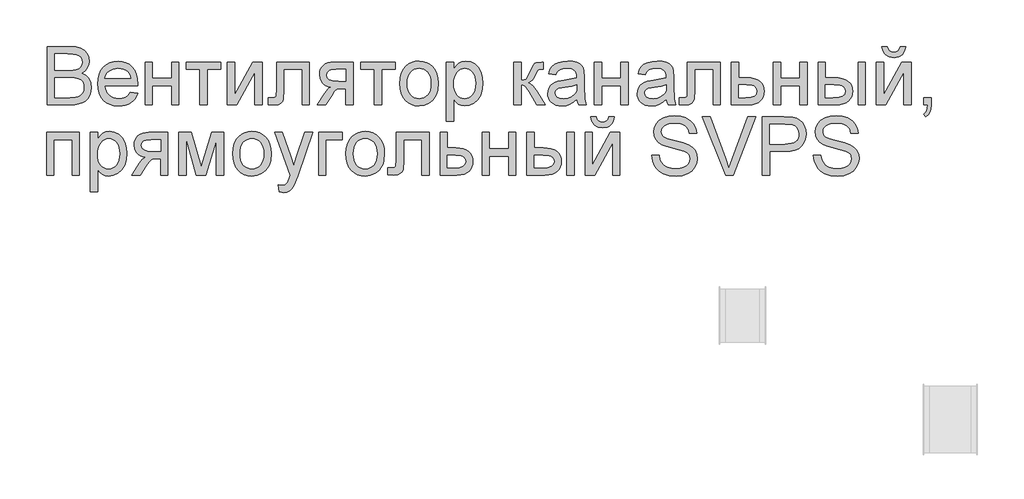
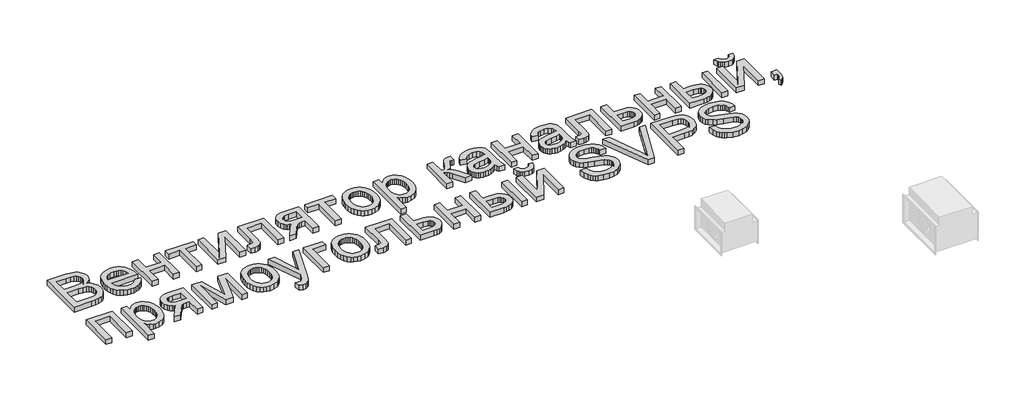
# One storey, part 22 of 31: 1 proxy.
"""IFC4 building model written with IfcOpenShell, lengths in millimetres."""

from ifc_helpers import new_model, si_unit, origin, origin_with_axes, place, context, project, spatial, polyline, outline, extrude, element, save

model = new_model("IFC4")

# Units and contexts
model_context = context("Model", 3, world=origin())
ifc_project = project(units=[si_unit("LENGTHUNIT", "METRE", prefix="MILLI")], contexts=[model_context])

# Site, building, storey
site = spatial("IfcSite", under=ifc_project)
building = spatial("IfcBuilding", under=site)
storey = spatial("IfcBuildingStorey", under=building, Name="Этаж 01", Elevation=0.0)

# Proxy
placement = place(None, origin())
element("IfcBuildingElementProxy", 1, Name="450 мм Arial", ObjectType="450 мм Arial", at=placement, inside=storey, context=model_context, shape_type="SweptSolid", body=[
    extrude(outline(polyline([(42370.3525298, -2479.5055236), (42370.3525298, -2029.8493808), (42541.9376253, -2029.8493808), (42589.1290155, -2033.1564832), (42625.9737037, -2043.0777903), (42654.2144368, -2059.8603056), (42675.5939617, -2083.7510327), (42689.0556522, -2111.8545416), (42693.5428824, -2141.2754025), (42689.7692179, -2168.3497302), (42678.4482243, -2193.8048128), (42659.4975672, -2216.0762947), (42632.834912, -2233.5998205), (42664.6846406, -2250.2313893), (42688.2185848, -2275.5355253), (42702.7506239, -2307.8380936), (42707.5946369, -2345.4649596), (42704.2875345, -2376.8206812), (42694.3662274, -2405.8984817), (42679.5597401, -2430.6262762), (42661.5970969, -2448.9319797), (42639.6000633, -2462.1878341), (42612.6904046, -2471.7660807), (42579.9898862, -2477.5706629), (42540.6202733, -2479.5055236), (42370.3525298, -2479.5055236)]), holes=[polyline([(42426.5595476, -2212.5221888), (42529.2032228, -2212.5221888), (42565.1010643, -2211.3146162), (42589.1427379, -2207.6918982), (42610.1243127, -2199.3623914), (42625.2052484, -2186.8887149), (42634.3032105, -2170.4629824), (42637.3358646, -2150.2773077), (42634.5090468, -2130.681697), (42626.0285934, -2113.6110109), (42612.2787321, -2100.2865445), (42593.6436905, -2091.9295929), (42565.0461746, -2087.5246972), (42521.4088903, -2086.0563987), (42426.5595476, -2086.0563987), (42426.5595476, -2212.5221888)]), polyline([(42426.5595476, -2423.2985058), (42541.827846, -2423.2985058), (42583.543992, -2421.1029192), (42602.9063217, -2416.2314613), (42618.8380472, -2408.8625237), (42631.7920083, -2398.3099854), (42642.2210448, -2383.8877257), (42649.0959755, -2366.2406981), (42651.387619, -2346.0138562), (42648.6980254, -2322.5210792), (42640.6292445, -2302.3216822), (42626.5363228, -2286.5271809), (42605.7743067, -2276.2490909), (42576.3671682, -2270.6091777), (42536.3388794, -2268.7292067), (42426.5595476, -2268.7292067), (42426.5595476, -2423.2985058)])]), origin_with_axes(), (0.0, 0.0, 1.0), 50.0),
    extrude(outline(polyline([(43009.0486819, -2381.1432424), (43064.1579064, -2388.1691196), (43055.7083285, -2410.2416265), (43044.3015698, -2429.6931519), (43029.9376303, -2446.5236957), (43012.6165101, -2460.7332579), (42992.5166006, -2472.0199455), (42969.8162932, -2480.0818651), (42944.5155878, -2484.9190169), (42916.6144845, -2486.5314009), (42881.7389631, -2483.7491809), (42850.664551, -2475.4025211), (42823.3912483, -2461.4914214), (42799.9190549, -2442.0158818), (42781.043871, -2417.5179378), (42767.5615969, -2388.5396249), (42759.4722324, -2355.0809429), (42756.7757775, -2317.141892), (42759.4996772, -2277.9163645), (42767.6713762, -2243.3427362), (42781.2908745, -2213.4210071), (42800.3581722, -2188.1511772), (42823.7686147, -2168.0752819), (42850.4175475, -2153.7353567), (42880.3049706, -2145.1314016), (42913.4308839, -2142.2634165), (42945.4898794, -2145.1245404), (42974.4819148, -2153.7079119), (43000.4069901, -2168.013531), (43023.2651053, -2188.0413979), (43041.9241611, -2213.2563381), (43055.2520581, -2243.1231776), (43063.2487963, -2277.6419162), (43065.9143757, -2316.812554), (43065.5850377, -2331.9621018), (42812.9827954, -2331.9621018), (42816.2384387, -2354.3913915), (42822.7119886, -2374.0350307), (42832.4034453, -2390.8930193), (42845.3128086, -2404.9653574), (42860.7265129, -2416.0599311), (42877.9309925, -2423.9846266), (42896.9262475, -2428.7394439), (42917.7122779, -2430.324383), (42947.6271458, -2427.3877859), (42972.8215024, -2418.5779945), (42993.2953478, -2403.3461122), (43009.0486819, -2381.1432424)]), holes=[polyline([(42812.9827954, -2275.7550839), (43009.7073579, -2275.7550839), (43002.1051391, -2246.0597747), (42987.2025948, -2224.817474), (42971.8746557, -2213.2906442), (42954.4334643, -2205.0571943), (42934.8790209, -2200.1171244), (42913.2113253, -2198.4704344), (42875.3237334, -2203.7261199), (42843.9954566, -2219.4931764), (42831.538933, -2230.8930739), (42822.2179817, -2244.0700243), (42816.0326024, -2259.0240276), (42812.9827954, -2275.7550839)])]), origin_with_axes(), (0.0, 0.0, 1.0), 50.0),
    extrude(outline(polyline([(43122.1213936, -2149.2892938), (43178.3284114, -2149.2892938), (43178.3284114, -2275.7550839), (43325.8718333, -2275.7550839), (43325.8718333, -2149.2892938), (43382.0788511, -2149.2892938), (43382.0788511, -2479.5055236), (43325.8718333, -2479.5055236), (43325.8718333, -2331.9621018), (43178.3284114, -2331.9621018), (43178.3284114, -2479.5055236), (43122.1213936, -2479.5055236), (43122.1213936, -2149.2892938)])), origin_with_axes(), (0.0, 0.0, 1.0), 50.0),
    extrude(outline(polyline([(43438.285869, -2149.2892938), (43705.2692038, -2149.2892938), (43705.2692038, -2205.4963116), (43599.8810453, -2205.4963116), (43599.8810453, -2479.5055236), (43543.6740274, -2479.5055236), (43543.6740274, -2205.4963116), (43438.285869, -2205.4963116), (43438.285869, -2149.2892938)])), origin_with_axes(), (0.0, 0.0, 1.0), 50.0),
    extrude(outline(polyline([(43754.4503444, -2149.2892938), (43810.6573622, -2149.2892938), (43810.6573622, -2401.1230808), (43948.7597616, -2149.2892938), (44021.4336792, -2149.2892938), (44021.4336792, -2479.5055236), (43965.2266613, -2479.5055236), (43965.2266613, -2229.2086473), (43828.0024967, -2479.5055236), (43754.4503444, -2479.5055236), (43754.4503444, -2149.2892938)])), origin_with_axes(), (0.0, 0.0, 1.0), 50.0),
    extrude(outline(polyline([(44133.8477149, -2149.2892938), (44386.7792952, -2149.2892938), (44386.7792952, -2479.1761856), (44330.5722774, -2479.1761856), (44330.5722774, -2205.4963116), (44190.0547327, -2205.4963116), (44190.0547327, -2363.0296527), (44186.2673458, -2435.7035703), (44179.1728565, -2452.1567476), (44165.4641624, -2466.3868935), (44144.6609791, -2476.2258661), (44116.2830218, -2479.5055236), (44070.6148198, -2476.651261), (44070.6148198, -2423.2985058), (44095.7542868, -2423.2985058), (44121.1682021, -2419.8404568), (44127.5216809, -2415.3669491), (44131.3227903, -2408.8625237), (44133.8477149, -2359.846052), (44133.8477149, -2149.2892938)])), origin_with_axes(), (0.0, 0.0, 1.0), 50.0),
    extrude(outline(polyline([(44724.0214023, -2149.2892938), (44724.0214023, -2479.5055236), (44667.8143845, -2479.5055236), (44667.8143845, -2353.0397335), (44637.1859509, -2353.0397335), (44612.7600496, -2354.8236476), (44595.4698049, -2360.17539), (44578.8107913, -2375.7366103), (44556.2785834, -2408.148958), (44511.4886161, -2479.5055236), (44446.4992517, -2479.5055236), (44502.9258282, -2389.2669129), (44527.8457365, -2356.8820101), (44539.5646802, -2347.4409876), (44550.7896169, -2342.5009176), (44530.1511025, -2337.9382141), (44512.3668507, -2330.7270843), (44497.4368616, -2320.8675281), (44485.3611351, -2308.3595455), (44469.3882424, -2278.6093465), (44464.0639448, -2244.687533), (44465.882165, -2224.4469688), (44471.3368255, -2206.2098773), (44480.4279264, -2189.9762586), (44493.1554677, -2175.7461127), (44509.3273355, -2164.1712544), (44528.751416, -2155.9034985), (44551.4277092, -2150.9428449), (44577.3562151, -2149.2892938), (44724.0214023, -2149.2892938)]), holes=[polyline([(44667.8143845, -2205.4963116), (44593.7133356, -2205.4963116), (44555.441516, -2208.7485243), (44542.5115691, -2212.8137902), (44533.7189308, -2218.5051624), (44523.6329547, -2232.625529), (44520.2709626, -2248.968927), (44525.224755, -2270.3896191), (44540.086132, -2285.2509961), (44567.5446874, -2293.9372857), (44610.2900147, -2296.8327156), (44667.8143845, -2296.8327156), (44667.8143845, -2205.4963116)])]), origin_with_axes(), (0.0, 0.0, 1.0), 50.0),
    extrude(outline(polyline([(44780.2284202, -2149.2892938), (45047.211755, -2149.2892938), (45047.211755, -2205.4963116), (44941.8235965, -2205.4963116), (44941.8235965, -2479.5055236), (44885.6165787, -2479.5055236), (44885.6165787, -2205.4963116), (44780.2284202, -2205.4963116), (44780.2284202, -2149.2892938)])), origin_with_axes(), (0.0, 0.0, 1.0), 50.0),
    extrude(outline(polyline([(45082.3411412, -2314.3974087), (45085.3806564, -2271.6314978), (45094.4992021, -2234.7799484), (45109.6967784, -2203.8427604), (45130.9733851, -2178.819934), (45152.3940772, -2162.8264576), (45176.0378008, -2151.4025459), (45201.9045558, -2144.5481989), (45229.9943423, -2142.2634165), (45261.003573, -2145.0456365), (45289.0419004, -2153.3922963), (45314.1093247, -2167.303396), (45336.2058458, -2186.7789355), (45354.2405316, -2211.160239), (45367.1224501, -2239.7886304), (45374.8516012, -2272.6641096), (45377.4279849, -2309.7866768), (45372.8721426, -2366.5700361), (45367.1773398, -2389.8775605), (45359.2046158, -2409.795648), (45336.8233545, -2442.1668284), (45306.1263089, -2466.3868935), (45269.6658484, -2481.495274), (45229.9943423, -2486.5314009), (45198.532272, -2483.7594727), (45170.2332186, -2475.4436884), (45145.0971823, -2461.5840477), (45123.1241629, -2442.1805508), (45105.2815909, -2417.5625357), (45092.5368966, -2388.0593403), (45084.89008, -2353.6709646), (45082.3411412, -2314.3974087)]), holes=[polyline([(45138.548159, -2314.2876294), (45140.1742654, -2341.5506403), (45145.0525844, -2365.1566272), (45153.1831162, -2385.1055902), (45164.5658606, -2401.3975291), (45178.4117788, -2414.0530277), (45193.9318319, -2423.0926695), (45211.1260197, -2428.5164546), (45229.9943423, -2430.324383), (45248.7666081, -2428.5061628), (45265.8921838, -2423.0515023), (45281.3710696, -2413.9604014), (45295.2032654, -2401.2328601), (45306.5860099, -2384.7796828), (45314.7165416, -2364.5116736), (45319.5948607, -2340.4288327), (45321.220967, -2312.5311601), (45319.5845689, -2286.1326614), (45314.6753744, -2263.1441832), (45306.4933835, -2243.5657255), (45295.0385964, -2227.3972883), (45281.1549415, -2214.7417897), (45265.6863476, -2205.7021479), (45248.6328145, -2200.2783627), (45229.9943423, -2198.4704344), (45211.1260197, -2200.2715015), (45193.9318319, -2205.674703), (45178.4117788, -2214.6800388), (45164.5658606, -2227.287509), (45153.1831162, -2243.5314195), (45145.0525844, -2263.4460764), (45140.1742654, -2287.0314797), (45138.548159, -2314.2876294)])]), origin_with_axes(), (0.0, 0.0, 1.0), 50.0),
    extrude(outline(polyline([(45440.66088, -2605.9713138), (45440.66088, -2149.2892938), (45496.8678978, -2149.2892938), (45496.8678978, -2204.3985183), (45515.2010462, -2177.2144113), (45535.7297812, -2157.797192), (45559.6616756, -2146.1468604), (45588.2043018, -2142.2634165), (45626.2153954, -2147.6974934), (45659.4510881, -2163.9997242), (45686.5116934, -2190.1820948), (45705.9975248, -2225.2565913), (45717.7713581, -2266.6708442), (45721.6959692, -2311.8724841), (45717.2636287, -2359.942109), (45703.9666071, -2402.9344397), (45682.2302995, -2438.6676122), (45652.4801006, -2464.9597622), (45617.830999, -2481.1384912), (45581.3979833, -2486.5314009), (45555.558673, -2482.9224053), (45532.491291, -2472.0954187), (45512.7447337, -2455.7520207), (45496.8678978, -2435.5937909), (45496.8678978, -2605.9713138), (45440.66088, -2605.9713138)]), holes=[polyline([(45496.8678978, -2317.0321127), (45498.3876554, -2344.1201628), (45502.9469283, -2367.4208259), (45510.5457164, -2386.9341021), (45521.1840198, -2402.6599914), (45533.990465, -2414.7631627), (45548.0936785, -2423.4082851), (45563.4936604, -2428.5953585), (45580.1904106, -2430.324383), (45597.1273031, -2428.5336077), (45612.8085945, -2423.1612816), (45627.2342849, -2414.2074049), (45640.4043741, -2401.6719774), (45651.3788766, -2385.3766079), (45659.217807, -2365.1429048), (45663.9211653, -2340.9708682), (45665.4889514, -2312.8604981), (45663.9589019, -2286.005729), (45659.3687536, -2262.7462331), (45651.7185064, -2243.0820103), (45641.0081604, -2227.0130606), (45628.1708398, -2214.5256616), (45614.1396689, -2205.6060909), (45598.9146479, -2200.2543485), (45582.4957766, -2198.4704344), (45566.1283643, -2200.3675585), (45550.7283824, -2206.0589307), (45536.2958309, -2215.5445511), (45522.8307098, -2228.8244196), (45511.4719795, -2245.7201449), (45503.3586008, -2266.0533355), (45498.4905736, -2289.8239914), (45496.8678978, -2317.0321127)])]), origin_with_axes(), (0.0, 0.0, 1.0), 50.0),
    extrude(outline(polyline([(45960.5757951, -2149.2892938), (46016.7828129, -2149.2892938), (46016.7828129, -2289.8068384), (46039.6443588, -2287.2819138), (46054.4371237, -2279.7071399), (46067.528309, -2259.9468602), (46085.285116, -2220.8654181), (46099.5975963, -2188.9059101), (46110.9185899, -2170.0924771), (46121.4848506, -2159.841832), (46133.5331323, -2153.5706877), (46174.645492, -2149.2892938), (46185.4038665, -2149.2892938), (46185.4038665, -2205.8256496), (46170.2543187, -2205.4963116), (46152.6896256, -2206.9783326), (46142.8094858, -2211.4243955), (46123.4883234, -2248.4200303), (46111.6184332, -2273.0792127), (46100.8188914, -2288.4345967), (46087.7414285, -2298.6852418), (46069.0377749, -2308.0302075), (46086.8494714, -2315.9411805), (46104.496499, -2329.9037393), (46121.9788576, -2349.9178837), (46139.2965472, -2375.9836138), (46199.455621, -2479.5055236), (46135.5640499, -2479.5055236), (46076.6125487, -2378.1792004), (46060.6945456, -2351.2146521), (46046.9721292, -2335.3103714), (46033.1124885, -2327.5297613), (46016.7828129, -2324.9362245), (46016.7828129, -2479.5055236), (45960.5757951, -2479.5055236), (45960.5757951, -2149.2892938)])), origin_with_axes(), (0.0, 0.0, 1.0), 50.0),
    extrude(outline(polyline([(46445.3613241, -2437.3502602), (46418.506555, -2460.3764751), (46390.8558859, -2475.4436884), (46361.7780854, -2483.7594727), (46330.6419224, -2486.5314009), (46305.6156654, -2484.8641273), (46283.6700908, -2479.8623065), (46264.8051988, -2471.5259385), (46249.0209892, -2459.8550233), (46236.5576045, -2445.5905713), (46227.6551868, -2429.4735932), (46222.3137362, -2411.5040888), (46220.5332527, -2391.6820582), (46223.2228463, -2368.3813951), (46231.2916272, -2347.2214289), (46243.7378589, -2329.1078392), (46259.5598051, -2314.9463054), (46278.1536794, -2304.2428205), (46298.9156955, -2296.5033776), (46347.5479395, -2288.0503691), (46405.0174197, -2279.1582432), (46445.0319861, -2268.7292067), (46445.3613241, -2256.2143629), (46441.4916026, -2231.1297856), (46429.8824383, -2214.7177755), (46403.9196263, -2202.5322697), (46367.7473365, -2198.4704344), (46334.2646403, -2201.1737504), (46310.8816427, -2209.2836986), (46294.9361947, -2224.2822998), (46283.7661477, -2247.651575), (46227.5591299, -2240.6256978), (46237.315768, -2209.8874849), (46251.8752519, -2185.7360319), (46272.5961007, -2167.2656593), (46300.8368338, -2153.5706877), (46335.3761561, -2145.0902343), (46374.9927724, -2142.2634165), (46412.9901436, -2144.7608963), (46443.1108478, -2152.2533357), (46465.821447, -2163.5194396), (46481.5885035, -2177.337913), (46492.0449849, -2194.4223215), (46498.8238586, -2215.4862308), (46501.5683419, -2264.6673714), (46501.5683419, -2334.5968057), (46504.4226045, -2432.2455213), (46515.6200964, -2479.5055236), (46459.4130785, -2479.5055236), (46450.4111733, -2459.9648026), (46445.3613241, -2437.3502602)]), holes=[polyline([(46445.3613241, -2324.9362245), (46407.5972339, -2334.2949126), (46354.683596, -2342.1715796), (46306.3258004, -2351.2832642), (46293.7423445, -2357.5132412), (46284.4248237, -2366.1034739), (46278.6614088, -2376.3952863), (46276.7402705, -2387.7300023), (46280.9256075, -2404.4439056), (46293.4816186, -2418.1388772), (46314.1338554, -2427.2780066), (46342.6078696, -2430.324383), (46372.7971858, -2426.962391), (46399.4735634, -2416.8764149), (46421.1000918, -2402.0150378), (46436.1398602, -2384.326843), (46442.8089546, -2366.1034739), (46445.0319861, -2340.8542276), (46445.3613241, -2324.9362245)])]), origin_with_axes(), (0.0, 0.0, 1.0), 50.0),
    extrude(outline(polyline([(46578.8529915, -2149.2892938), (46635.0600093, -2149.2892938), (46635.0600093, -2275.7550839), (46782.6034312, -2275.7550839), (46782.6034312, -2149.2892938), (46838.810449, -2149.2892938), (46838.810449, -2479.5055236), (46782.6034312, -2479.5055236), (46782.6034312, -2331.9621018), (46635.0600093, -2331.9621018), (46635.0600093, -2479.5055236), (46578.8529915, -2479.5055236), (46578.8529915, -2149.2892938)])), origin_with_axes(), (0.0, 0.0, 1.0), 50.0),
    extrude(outline(polyline([(47133.8972928, -2437.3502602), (47107.0425237, -2460.3764751), (47079.3918545, -2475.4436884), (47050.3140541, -2483.7594727), (47019.1778911, -2486.5314009), (46994.1516341, -2484.8641273), (46972.2060595, -2479.8623065), (46953.3411675, -2471.5259385), (46937.5569579, -2459.8550233), (46925.0935732, -2445.5905713), (46916.1911555, -2429.4735932), (46910.8497049, -2411.5040888), (46909.0692213, -2391.6820582), (46911.758815, -2368.3813951), (46919.8275959, -2347.2214289), (46932.2738276, -2329.1078392), (46948.0957738, -2314.9463054), (46966.6896481, -2304.2428205), (46987.4516642, -2296.5033776), (47036.0839082, -2288.0503691), (47093.5533883, -2279.1582432), (47133.5679548, -2268.7292067), (47133.8972928, -2256.2143629), (47130.0275713, -2231.1297856), (47118.418407, -2214.7177755), (47092.455595, -2202.5322697), (47056.2833052, -2198.4704344), (47022.800609, -2201.1737504), (46999.4176114, -2209.2836986), (46983.4721634, -2224.2822998), (46972.3021164, -2247.651575), (46916.0950986, -2240.6256978), (46925.8517367, -2209.8874849), (46940.4112206, -2185.7360319), (46961.1320694, -2167.2656593), (46989.3728025, -2153.5706877), (47023.9121248, -2145.0902343), (47063.5287411, -2142.2634165), (47101.5261123, -2144.7608963), (47131.6468165, -2152.2533357), (47154.3574157, -2163.5194396), (47170.1244722, -2177.337913), (47180.5809536, -2194.4223215), (47187.3598273, -2215.4862308), (47190.1043106, -2264.6673714), (47190.1043106, -2334.5968057), (47192.9585732, -2432.2455213), (47204.1560651, -2479.5055236), (47147.9490472, -2479.5055236), (47138.947142, -2459.9648026), (47133.8972928, -2437.3502602)]), holes=[polyline([(47133.8972928, -2324.9362245), (47096.1332026, -2334.2949126), (47043.2195647, -2342.1715796), (46994.8617691, -2351.2832642), (46982.2783132, -2357.5132412), (46972.9607924, -2366.1034739), (46967.1973775, -2376.3952863), (46965.2762392, -2387.7300023), (46969.4615762, -2404.4439056), (46982.0175873, -2418.1388772), (47002.6698241, -2427.2780066), (47031.1438382, -2430.324383), (47061.3331545, -2426.962391), (47088.0095321, -2416.8764149), (47109.6360604, -2402.0150378), (47124.6758289, -2384.326843), (47131.3449233, -2366.1034739), (47133.5679548, -2340.8542276), (47133.8972928, -2324.9362245)])]), origin_with_axes(), (0.0, 0.0, 1.0), 50.0),
    extrude(outline(polyline([(47295.4924691, -2149.2892938), (47548.4240494, -2149.2892938), (47548.4240494, -2479.1761856), (47492.2170316, -2479.1761856), (47492.2170316, -2205.4963116), (47351.6994869, -2205.4963116), (47351.6994869, -2363.0296527), (47347.9121, -2435.7035703), (47340.8176107, -2452.1567476), (47327.1089166, -2466.3868935), (47306.3057333, -2476.2258661), (47277.927776, -2479.5055236), (47232.259574, -2476.651261), (47232.259574, -2423.2985058), (47257.399041, -2423.2985058), (47282.8129563, -2419.8404568), (47289.1664351, -2415.3669491), (47292.9675445, -2408.8625237), (47295.4924691, -2359.846052), (47295.4924691, -2149.2892938)])), origin_with_axes(), (0.0, 0.0, 1.0), 50.0),
    extrude(outline(polyline([(47632.7345762, -2149.2892938), (47688.941594, -2149.2892938), (47688.941594, -2268.7292067), (47753.7113998, -2268.7292067), (47783.6125453, -2270.4891066), (47809.863528, -2275.7688063), (47832.4643479, -2284.5683059), (47851.415005, -2296.8876053), (47866.3998838, -2312.3013096), (47877.1033687, -2330.3840239), (47883.5254596, -2351.1357482), (47885.6661565, -2374.5564825), (47883.8445057, -2395.4522922), (47878.3795534, -2414.7768852), (47869.2712995, -2432.5302615), (47856.519744, -2448.7124211), (47839.7612428, -2462.1844035), (47818.6321521, -2471.807248), (47793.1324717, -2477.5809547), (47763.2622016, -2479.5055236), (47632.7345762, -2479.5055236), (47632.7345762, -2149.2892938)]), holes=[polyline([(47688.941594, -2423.2985058), (47741.4161146, -2423.2985058), (47782.1305243, -2420.3481862), (47809.204852, -2411.4972276), (47824.395567, -2396.3888471), (47829.4591387, -2374.6662618), (47825.712919, -2356.3056686), (47814.4742599, -2340.0857723), (47804.70733, -2333.4578452), (47790.391419, -2328.7236115), (47748.1126539, -2324.9362245), (47688.941594, -2324.9362245), (47688.941594, -2423.2985058)])]), origin_with_axes(), (0.0, 0.0, 1.0), 50.0),
    extrude(outline(polyline([(47955.9249288, -2149.2892938), (48012.1319467, -2149.2892938), (48012.1319467, -2275.7550839), (48159.6753686, -2275.7550839), (48159.6753686, -2149.2892938), (48215.8823864, -2149.2892938), (48215.8823864, -2479.5055236), (48159.6753686, -2479.5055236), (48159.6753686, -2331.9621018), (48012.1319467, -2331.9621018), (48012.1319467, -2479.5055236), (47955.9249288, -2479.5055236), (47955.9249288, -2149.2892938)])), origin_with_axes(), (0.0, 0.0, 1.0), 50.0),
    extrude(outline(polyline([(48300.1929132, -2149.2892938), (48356.399931, -2149.2892938), (48356.399931, -2268.7292067), (48425.890248, -2268.7292067), (48457.866909, -2270.4891066), (48485.9532649, -2275.7688063), (48510.1493158, -2284.5683059), (48530.4550615, -2296.8876053), (48546.5205806, -2312.3013096), (48557.9959514, -2330.3840239), (48564.8811738, -2351.1357482), (48567.176248, -2374.5564825), (48565.2516791, -2395.4522922), (48559.4779723, -2414.7768852), (48549.8551278, -2432.5302615), (48536.3831454, -2448.7124211), (48518.6846588, -2462.1844035), (48496.3823014, -2471.807248), (48469.4760733, -2477.5809547), (48437.9659745, -2479.5055236), (48300.1929132, -2479.5055236), (48300.1929132, -2149.2892938)]), holes=[polyline([(48356.399931, -2423.2985058), (48414.1438595, -2423.2985058), (48458.9063821, -2420.3481862), (48488.6840258, -2411.4972276), (48505.397929, -2396.3888471), (48510.9692301, -2374.6662618), (48506.8387828, -2356.3056686), (48494.4474407, -2340.0857723), (48483.6924968, -2333.4578452), (48467.9494545, -2328.7236115), (48421.4990748, -2324.9362245), (48356.399931, -2324.9362245), (48356.399931, -2423.2985058)])]), origin_with_axes(), (0.0, 0.0, 1.0), 50.0),
    extrude(outline(polyline([(48609.3315114, -2149.2892938), (48665.5385292, -2149.2892938), (48665.5385292, -2479.5055236), (48609.3315114, -2479.5055236), (48609.3315114, -2149.2892938)])), origin_with_axes(), (0.0, 0.0, 1.0), 50.0),
    extrude(outline(polyline([(48932.521864, -2029.8493808), (48974.6771274, -2029.8493808), (48965.6066101, -2065.8432792), (48957.644178, -2080.2895532), (48947.3969635, -2092.3687102), (48935.0708029, -2101.9023591), (48920.8715324, -2108.7121083), (48886.853662, -2114.1599076), (48849.9403617, -2108.7532755), (48834.5918389, -2101.9949854), (48821.315401, -2092.5333792), (48810.3031618, -2080.5056812), (48801.7472351, -2066.0491155), (48792.0043194, -2029.8493808), (48834.1595828, -2029.8493808), (48840.0876667, -2048.3609206), (48849.9678066, -2061.520718), (48863.854892, -2069.3836627), (48881.8038128, -2072.0046442), (48902.0580995, -2069.4659972), (48916.7136403, -2061.850056), (48926.5937801, -2048.7725931), (48932.521864, -2029.8493808)])), origin_with_axes(), (0.0, 0.0, 1.0), 50.0),
    extrude(outline(polyline([(48749.849056, -2149.2892938), (48806.0560739, -2149.2892938), (48806.0560739, -2401.1230808), (48944.1584732, -2149.2892938), (49016.8323908, -2149.2892938), (49016.8323908, -2479.5055236), (48960.625373, -2479.5055236), (48960.625373, -2229.2086473), (48823.4012083, -2479.5055236), (48749.849056, -2479.5055236), (48749.849056, -2149.2892938)])), origin_with_axes(), (0.0, 0.0, 1.0), 50.0),
    extrude(outline(polyline([(49115.194672, -2479.5055236), (49115.194672, -2423.2985058), (49171.4016899, -2423.2985058), (49171.4016899, -2479.5055236), (49168.8767653, -2511.6571454), (49161.3019914, -2536.9750038), (49148.2382509, -2556.3922231), (49129.2464265, -2570.8419276), (49115.194672, -2549.764296), (49127.3801779, -2539.5822629), (49135.8331864, -2525.5030636), (49140.9653702, -2505.9897874), (49143.1884016, -2479.5055236), (49115.194672, -2479.5055236)])), origin_with_axes(), (0.0, 0.0, 1.0), 50.0),
    extrude(outline(polyline([(42363.3266526, -2689.7213769), (42616.2582329, -2689.7213769), (42616.2582329, -3019.9376068), (42560.051215, -3019.9376068), (42560.051215, -2745.9283948), (42419.5336704, -2745.9283948), (42419.5336704, -3019.9376068), (42363.3266526, -3019.9376068), (42363.3266526, -2689.7213769)])), origin_with_axes(), (0.0, 0.0, 1.0), 50.0),
    extrude(outline(polyline([(42700.5687597, -3146.403397), (42700.5687597, -2689.7213769), (42756.7757775, -2689.7213769), (42756.7757775, -2744.8306015), (42775.1089259, -2717.6464944), (42795.637661, -2698.2292751), (42819.5695553, -2686.5789436), (42848.1121815, -2682.6954997), (42886.1232751, -2688.1295766), (42919.3589678, -2704.4318074), (42946.4195731, -2730.614178), (42965.9054045, -2765.6886745), (42977.6792378, -2807.1029274), (42981.6038489, -2852.3045672), (42977.1715084, -2900.3741921), (42963.8744869, -2943.3665229), (42942.1381792, -2979.0996954), (42912.3879803, -3005.3918454), (42877.7388787, -3021.5705744), (42841.305863, -3026.963484), (42815.4665528, -3023.3544885), (42792.3991707, -3012.5275019), (42772.6526134, -2996.1841039), (42756.7757775, -2976.0258741), (42756.7757775, -3146.403397), (42700.5687597, -3146.403397)]), holes=[polyline([(42756.7757775, -2857.4641958), (42758.2955351, -2884.5522459), (42762.854808, -2907.8529091), (42770.4535961, -2927.3661853), (42781.0918995, -2943.0920746), (42793.8983447, -2955.1952459), (42808.0015582, -2963.8403683), (42823.4015401, -2969.0274417), (42840.0982903, -2970.7564662), (42857.0351828, -2968.9656908), (42872.7164743, -2963.5933648), (42887.1421646, -2954.6394881), (42900.3122538, -2942.1040606), (42911.2867563, -2925.8086911), (42919.1256867, -2905.574988), (42923.829045, -2881.4029514), (42925.3968311, -2853.2925812), (42923.8667816, -2826.4378122), (42919.2766333, -2803.1783163), (42911.6263861, -2783.5140935), (42900.9160401, -2767.4451438), (42888.0787195, -2754.9577448), (42874.0475487, -2746.0381741), (42858.8225276, -2740.6864317), (42842.4036563, -2738.9025176), (42826.036244, -2740.7996416), (42810.6362622, -2746.4910139), (42796.2037106, -2755.9766342), (42782.7385895, -2769.2565028), (42771.3798592, -2786.1522281), (42763.2664805, -2806.4854187), (42758.3984533, -2830.2560746), (42756.7757775, -2857.4641958)])]), origin_with_axes(), (0.0, 0.0, 1.0), 50.0),
    extrude(outline(polyline([(43297.7683243, -2689.7213769), (43297.7683243, -3019.9376068), (43241.5613065, -3019.9376068), (43241.5613065, -2893.4718166), (43210.9328729, -2893.4718166), (43186.5069716, -2895.2557308), (43169.2167269, -2900.6074732), (43152.5577133, -2916.1686935), (43130.0255054, -2948.5810412), (43085.2355381, -3019.9376068), (43020.2461737, -3019.9376068), (43076.6727502, -2929.6989961), (43101.5926585, -2897.3140933), (43113.3116022, -2887.8730707), (43124.5365389, -2882.9330008), (43103.8980245, -2878.3702973), (43086.1137727, -2871.1591675), (43071.1837836, -2861.2996112), (43059.1080571, -2848.7916286), (43043.1351644, -2819.0414297), (43037.8108668, -2785.1196162), (43039.629087, -2764.8790519), (43045.0837475, -2746.6419604), (43054.1748484, -2730.4083418), (43066.9023897, -2716.1781959), (43083.0742575, -2704.6033376), (43102.498338, -2696.3355817), (43125.1746312, -2691.3749281), (43151.1031371, -2689.7213769), (43297.7683243, -2689.7213769)]), holes=[polyline([(43241.5613065, -2745.9283948), (43167.4602576, -2745.9283948), (43129.188438, -2749.1806075), (43116.2584911, -2753.2458734), (43107.4658528, -2758.9372456), (43097.3798767, -2773.0576121), (43094.0178846, -2789.4010102), (43098.971677, -2810.8217023), (43113.833054, -2825.6830793), (43141.2916094, -2834.3693689), (43184.0369367, -2837.2647988), (43241.5613065, -2837.2647988), (43241.5613065, -2745.9283948)])]), origin_with_axes(), (0.0, 0.0, 1.0), 50.0),
    extrude(outline(polyline([(43382.0788511, -2689.7213769), (43478.7944424, -2689.7213769), (43553.3346086, -2954.0700078), (43633.6930795, -2689.7213769), (43726.3468355, -2689.7213769), (43726.3468355, -3019.9376068), (43670.1398176, -3019.9376068), (43670.1398176, -2754.0520653), (43589.3422295, -3019.9376068), (43515.5705185, -3019.9376068), (43438.285869, -2741.3176629), (43438.285869, -3019.9376068), (43382.0788511, -3019.9376068), (43382.0788511, -2689.7213769)])), origin_with_axes(), (0.0, 0.0, 1.0), 50.0),
    extrude(outline(polyline([(43796.6056078, -2854.8294919), (43799.645123, -2812.063581), (43808.7636688, -2775.2120315), (43823.961245, -2744.2748436), (43845.2378517, -2719.2520172), (43866.6585439, -2703.2585408), (43890.3022674, -2691.8346291), (43916.1690225, -2684.980282), (43944.258809, -2682.6954997), (43975.2680396, -2685.4777196), (44003.306367, -2693.8243795), (44028.3737913, -2707.7354792), (44050.4703124, -2727.2110187), (44068.5049983, -2751.5923222), (44081.3869167, -2780.2207135), (44089.1160678, -2813.0961928), (44091.6924515, -2850.2187599), (44087.1366092, -2907.0021193), (44081.4418064, -2930.3096437), (44073.4690824, -2950.2277312), (44051.0878212, -2982.5989116), (44020.3907755, -3006.8189767), (43983.930315, -3021.9273572), (43944.258809, -3026.963484), (43912.7967386, -3024.1915559), (43884.4976853, -3015.8757715), (43859.3616489, -3002.0161309), (43837.3886295, -2982.612634), (43819.5460575, -2957.9946189), (43806.8013632, -2928.4914235), (43799.1545466, -2894.1030478), (43796.6056078, -2854.8294919)]), holes=[polyline([(43852.8126256, -2854.7197125), (43854.438732, -2881.9827235), (43859.317051, -2905.5887104), (43867.4475828, -2925.5376733), (43878.8303273, -2941.8296123), (43892.6762455, -2954.4851109), (43908.1962985, -2963.5247527), (43925.3904863, -2968.9485378), (43944.258809, -2970.7564662), (43963.0310747, -2968.938246), (43980.1566505, -2963.4835855), (43995.6355362, -2954.3924846), (44009.467732, -2941.6649433), (44020.8504765, -2925.2117659), (44028.9810082, -2904.9437568), (44033.8593273, -2880.8609159), (44035.4854337, -2852.9632432), (44033.8490355, -2826.5647446), (44028.939841, -2803.5762664), (44020.7578502, -2783.9978087), (44009.303063, -2767.8293715), (43995.4194082, -2755.1738729), (43979.9508142, -2746.134231), (43962.8972811, -2740.7104459), (43944.258809, -2738.9025176), (43925.3904863, -2740.7035847), (43908.1962985, -2746.1067862), (43892.6762455, -2755.112122), (43878.8303273, -2767.7195921), (43867.4475828, -2783.9635026), (43859.317051, -2803.8781595), (43854.438732, -2827.4635628), (43852.8126256, -2854.7197125)])]), origin_with_axes(), (0.0, 0.0, 1.0), 50.0),
    extrude(outline(polyline([(44154.9253466, -3146.403397), (44147.8994694, -3092.2821864), (44176.4420956, -3097.2222564), (44191.4544192, -3095.6716233), (44203.1184732, -3091.0197241), (44219.4755937, -3073.7294794), (44234.8447001, -3032.3426713), (44239.2358734, -3018.7300342), (44119.7959604, -2689.7213769), (44179.0767996, -2689.7213769), (44242.419474, -2873.0528609), (44264.4851197, -2946.3854545), (44286.5507654, -2881.6156488), (44351.6499091, -2689.7213769), (44410.4916309, -2689.7213769), (44295.5526706, -3027.8417187), (44265.6926923, -3101.1743123), (44250.4059204, -3124.5847548), (44233.0882308, -3140.8046511), (44212.9711682, -3150.2731184), (44189.2862774, -3153.4292742), (44154.9253466, -3146.403397)])), origin_with_axes(), (0.0, 0.0, 1.0), 50.0),
    extrude(outline(polyline([(44457.0380675, -2689.7213769), (44639.7108756, -2689.7213769), (44639.7108756, -2745.9283948), (44513.2450854, -2745.9283948), (44513.2450854, -3019.9376068), (44457.0380675, -3019.9376068), (44457.0380675, -2689.7213769)])), origin_with_axes(), (0.0, 0.0, 1.0), 50.0),
    extrude(outline(polyline([(44667.8143845, -2854.8294919), (44670.8538997, -2812.063581), (44679.9724455, -2775.2120315), (44695.1700217, -2744.2748436), (44716.4466285, -2719.2520172), (44737.8673206, -2703.2585408), (44761.5110441, -2691.8346291), (44787.3777992, -2684.980282), (44815.4675857, -2682.6954997), (44846.4768163, -2685.4777196), (44874.5151437, -2693.8243795), (44899.582568, -2707.7354792), (44921.6790891, -2727.2110187), (44939.713775, -2751.5923222), (44952.5956934, -2780.2207135), (44960.3248445, -2813.0961928), (44962.9012282, -2850.2187599), (44958.3453859, -2907.0021193), (44952.6505831, -2930.3096437), (44944.6778591, -2950.2277312), (44922.2965979, -2982.5989116), (44891.5995522, -3006.8189767), (44855.1390917, -3021.9273572), (44815.4675857, -3026.963484), (44784.0055153, -3024.1915559), (44755.706462, -3015.8757715), (44730.5704256, -3002.0161309), (44708.5974062, -2982.612634), (44690.7548342, -2957.9946189), (44678.0101399, -2928.4914235), (44670.3633234, -2894.1030478), (44667.8143845, -2854.8294919)]), holes=[polyline([(44724.0214023, -2854.7197125), (44725.6475087, -2881.9827235), (44730.5258277, -2905.5887104), (44738.6563595, -2925.5376733), (44750.039104, -2941.8296123), (44763.8850222, -2954.4851109), (44779.4050752, -2963.5247527), (44796.599263, -2968.9485378), (44815.4675857, -2970.7564662), (44834.2398514, -2968.938246), (44851.3654272, -2963.4835855), (44866.8443129, -2954.3924846), (44880.6765087, -2941.6649433), (44892.0592532, -2925.2117659), (44900.189785, -2904.9437568), (44905.068104, -2880.8609159), (44906.6942104, -2852.9632432), (44905.0578122, -2826.5647446), (44900.1486177, -2803.5762664), (44891.9666269, -2783.9978087), (44880.5118397, -2767.8293715), (44866.6281849, -2755.1738729), (44851.1595909, -2746.134231), (44834.1060579, -2740.7104459), (44815.4675857, -2738.9025176), (44796.599263, -2740.7035847), (44779.4050752, -2746.1067862), (44763.8850222, -2755.112122), (44750.039104, -2767.7195921), (44738.6563595, -2783.9635026), (44730.5258277, -2803.8781595), (44725.6475087, -2827.4635628), (44724.0214023, -2854.7197125)])]), origin_with_axes(), (0.0, 0.0, 1.0), 50.0),
    extrude(outline(polyline([(45054.2376322, -2689.7213769), (45307.1692126, -2689.7213769), (45307.1692126, -3019.6082688), (45250.9621947, -3019.6082688), (45250.9621947, -2745.9283948), (45110.4446501, -2745.9283948), (45110.4446501, -2903.4617358), (45106.6572631, -2976.1356535), (45099.5627738, -2992.5888308), (45085.8540798, -3006.8189767), (45065.0508964, -3016.6579493), (45036.6729391, -3019.9376068), (44991.0047371, -3017.0833442), (44991.0047371, -2963.730589), (45016.1442041, -2963.730589), (45041.5581194, -2960.27254), (45047.9115982, -2955.7990322), (45051.7127076, -2949.2946068), (45054.2376322, -2900.2781352), (45054.2376322, -2689.7213769)])), origin_with_axes(), (0.0, 0.0, 1.0), 50.0),
    extrude(outline(polyline([(45391.4797393, -2689.7213769), (45447.6867572, -2689.7213769), (45447.6867572, -2809.1612899), (45512.4565629, -2809.1612899), (45542.3577084, -2810.9211898), (45568.6086911, -2816.2008895), (45591.209511, -2825.0003891), (45610.1601682, -2837.3196885), (45625.145047, -2852.7333928), (45635.8485318, -2870.8161071), (45642.2706227, -2891.5678314), (45644.4113197, -2914.9885657), (45642.5896689, -2935.8843753), (45637.1247165, -2955.2089683), (45628.0164626, -2972.9623446), (45615.2649071, -2989.1445043), (45598.506406, -3002.6164866), (45577.3773152, -3012.2393312), (45551.8776348, -3018.0130379), (45522.0073648, -3019.9376068), (45391.4797393, -3019.9376068), (45391.4797393, -2689.7213769)]), holes=[polyline([(45447.6867572, -2963.730589), (45500.1612778, -2963.730589), (45540.8756874, -2960.7802694), (45567.9500151, -2951.9293108), (45583.1407301, -2936.8209303), (45588.2043018, -2915.098345), (45584.4580821, -2896.7377518), (45573.219423, -2880.5178555), (45563.4524931, -2873.8899283), (45549.1365821, -2869.1556947), (45506.857817, -2865.3683077), (45447.6867572, -2865.3683077), (45447.6867572, -2963.730589)])]), origin_with_axes(), (0.0, 0.0, 1.0), 50.0),
    extrude(outline(polyline([(45714.670092, -2689.7213769), (45770.8771098, -2689.7213769), (45770.8771098, -2816.1871671), (45918.4205317, -2816.1871671), (45918.4205317, -2689.7213769), (45974.6275496, -2689.7213769), (45974.6275496, -3019.9376068), (45918.4205317, -3019.9376068), (45918.4205317, -2872.394185), (45770.8771098, -2872.394185), (45770.8771098, -3019.9376068), (45714.670092, -3019.9376068), (45714.670092, -2689.7213769)])), origin_with_axes(), (0.0, 0.0, 1.0), 50.0),
    extrude(outline(polyline([(46368.0766745, -2689.7213769), (46424.2836924, -2689.7213769), (46424.2836924, -3019.9376068), (46368.0766745, -3019.9376068), (46368.0766745, -2689.7213769)])), origin_with_axes(), (0.0, 0.0, 1.0), 50.0),
    extrude(outline(polyline([(46058.9380763, -2689.7213769), (46115.1450942, -2689.7213769), (46115.1450942, -2809.1612899), (46184.6354112, -2809.1612899), (46216.6120722, -2810.9211898), (46244.6984281, -2816.2008895), (46268.8944789, -2825.0003891), (46289.2002247, -2837.3196885), (46305.2657437, -2852.7333928), (46316.7411145, -2870.8161071), (46323.626337, -2891.5678314), (46325.9214111, -2914.9885657), (46323.9968422, -2935.8843753), (46318.2231355, -2955.2089683), (46308.6002909, -2972.9623446), (46295.1283086, -2989.1445043), (46277.4298219, -3002.6164866), (46255.1274646, -3012.2393312), (46228.2212365, -3018.0130379), (46196.7111377, -3019.9376068), (46058.9380763, -3019.9376068), (46058.9380763, -2689.7213769)]), holes=[polyline([(46115.1450942, -2963.730589), (46172.8890227, -2963.730589), (46217.6515452, -2960.7802694), (46247.4291889, -2951.9293108), (46264.1430922, -2936.8209303), (46269.7143933, -2915.098345), (46265.5839459, -2896.7377518), (46253.1926039, -2880.5178555), (46242.4376599, -2873.8899283), (46226.6946177, -2869.1556947), (46180.2442379, -2865.3683077), (46115.1450942, -2865.3683077), (46115.1450942, -2963.730589)])]), origin_with_axes(), (0.0, 0.0, 1.0), 50.0),
    extrude(outline(polyline([(46508.5942192, -2689.7213769), (46564.801237, -2689.7213769), (46564.801237, -2941.555164), (46702.9036363, -2689.7213769), (46775.5775539, -2689.7213769), (46775.5775539, -3019.9376068), (46719.3705361, -3019.9376068), (46719.3705361, -2769.6407304), (46582.1463714, -3019.9376068), (46508.5942192, -3019.9376068), (46508.5942192, -2689.7213769)])), origin_with_axes(), (0.0, 0.0, 1.0), 50.0),
    extrude(outline(polyline([(46691.2670272, -2570.281464), (46733.4222906, -2570.281464), (46724.3517733, -2606.2753624), (46716.3893411, -2620.7216363), (46706.1421266, -2632.8007934), (46693.815966, -2642.3344423), (46679.6166956, -2649.1441914), (46645.5988252, -2654.5919908), (46608.6855249, -2649.1853587), (46593.337002, -2642.4270686), (46580.0605641, -2632.9654624), (46569.0483249, -2620.9377644), (46560.4923982, -2606.4811986), (46550.7494825, -2570.281464), (46592.9047459, -2570.281464), (46598.8328298, -2588.7930038), (46608.7129697, -2601.9528012), (46622.6000552, -2609.8157458), (46640.5489759, -2612.4367274), (46660.8032626, -2609.8980803), (46675.4588034, -2602.2821392), (46685.3389433, -2589.2046763), (46691.2670272, -2570.281464)])), origin_with_axes(), (0.0, 0.0, 1.0), 50.0),
    extrude(outline(polyline([(47021.4832571, -2865.3683077), (47077.6902749, -2865.3683077), (47084.1398106, -2896.5593604), (47095.8038646, -2921.6302152), (47113.9997889, -2941.5277191), (47140.0449353, -2957.1987187), (47171.8809415, -2967.3670293), (47207.449445, -2970.7564662), (47238.7639994, -2968.1903743), (47266.1813875, -2960.4920987), (47288.3979798, -2948.3065929), (47304.1101466, -2932.2788104), (47313.4551122, -2913.8770499), (47316.5701008, -2894.56961), (47314.23729, -2875.756177), (47307.2388576, -2859.4951135), (47293.0224341, -2845.6217504), (47269.0356501, -2833.9714188), (47187.1951583, -2812.5095595), (47133.4718978, -2798.3068584), (47099.0972446, -2784.7902782), (47071.1172374, -2765.8807883), (47051.2883456, -2742.9643528), (47039.473345, -2716.5349787), (47035.5350115, -2687.086673), (47040.4064694, -2654.1665959), (47055.0208429, -2623.4695502), (47078.9939045, -2597.4518486), (47111.9414264, -2578.5698035), (47151.4894307, -2567.084141), (47195.2639392, -2563.2555868), (47242.6886105, -2567.2625324), (47284.1851979, -2579.2833692), (47318.2716804, -2599.0710937), (47343.4660371, -2626.3787025), (47359.411485, -2659.5046159), (47365.7512414, -2696.7472542), (47309.5442235, -2696.7472542), (47305.7842814, -2678.8120558), (47299.2249664, -2663.2096683), (47289.8662783, -2649.9400916), (47277.7082173, -2639.0033257), (47262.5243635, -2630.4542602), (47244.088297, -2624.3477849), (47197.4595258, -2619.4626046), (47149.7329614, -2624.2928952), (47131.4890087, -2630.3307585), (47116.9912757, -2638.783767), (47098.0543409, -2660.1084022), (47093.3201073, -2672.2733244), (47091.7420294, -2685.439983), (47096.2155371, -2707.0390665), (47109.6360604, -2724.4116458), (47141.3622873, -2739.9454212), (47201.4115818, -2755.8085346), (47263.3820145, -2770.8757479), (47300.8716563, -2784.0218229), (47332.9134988, -2804.4133338), (47355.2673152, -2829.5802456), (47368.3996678, -2859.24811), (47372.7771186, -2893.1424787), (47367.7409918, -2927.7915802), (47352.6326113, -2960.3823193), (47328.0694858, -2988.4309386), (47294.6691241, -3009.4536806), (47254.5036111, -3022.5860332), (47209.6450317, -3026.963484), (47154.5769744, -3022.2429728), (47109.2518328, -3008.081439), (47090.1124924, -2997.4465662), (47073.1481551, -2984.423993), (47058.3588207, -2969.0137193), (47045.7444894, -2951.2157451), (47028.1523515, -2910.7620614), (47021.4832571, -2865.3683077)])), origin_with_axes(), (0.0, 0.0, 1.0), 50.0),
    extrude(outline(polyline([(47589.9206368, -3019.9376068), (47410.9803261, -2570.281464), (47471.1393999, -2570.281464), (47590.9086508, -2894.240272), (47615.1698831, -2967.2435276), (47639.1017774, -2894.240272), (47759.2003664, -2570.281464), (47819.3594402, -2570.281464), (47647.9939033, -3019.9376068), (47589.9206368, -3019.9376068)])), origin_with_axes(), (0.0, 0.0, 1.0), 50.0),
    extrude(outline(polyline([(47871.6144021, -3019.9376068), (47871.6144021, -2570.281464), (48038.2594277, -2570.281464), (48105.4443787, -2574.5628579), (48135.4004138, -2582.5630267), (48160.0595962, -2595.5856), (48179.9159328, -2614.2206415), (48195.4634307, -2639.0582153), (48205.5082396, -2668.3555745), (48208.8565092, -2700.3699721), (48206.5957411, -2727.9726128), (48199.8134367, -2753.3659445), (48188.5095962, -2776.5499671), (48172.6842194, -2797.5246807), (48150.9582035, -2814.9109824), (48121.9524457, -2827.3297693), (48085.6669459, -2834.7810414), (48042.1017043, -2837.2647988), (47927.8214199, -2837.2647988), (47927.8214199, -3019.9376068), (47871.6144021, -3019.9376068)]), holes=[polyline([(47927.8214199, -2781.0577809), (48045.3950842, -2781.0577809), (48095.2349008, -2775.8981524), (48113.8150527, -2769.4486166), (48128.1687003, -2760.4192666), (48138.8790464, -2749.0502445), (48146.5292936, -2735.5816928), (48151.1194419, -2720.0136113), (48152.6494913, -2702.3460001), (48149.0404958, -2677.0967538), (48138.2135092, -2655.7995634), (48121.5133284, -2639.771781), (48100.2847501, -2630.3307585), (48044.0777322, -2626.4884819), (47927.8214199, -2626.4884819), (47927.8214199, -2781.0577809)])]), origin_with_axes(), (0.0, 0.0, 1.0), 50.0),
    extrude(outline(polyline([(48265.063527, -2865.3683077), (48321.2705449, -2865.3683077), (48327.7200806, -2896.5593604), (48339.3841346, -2921.6302152), (48357.5800589, -2941.5277191), (48383.6252053, -2957.1987187), (48415.4612115, -2967.3670293), (48451.029715, -2970.7564662), (48482.3442694, -2968.1903743), (48509.7616575, -2960.4920987), (48531.9782497, -2948.3065929), (48547.6904166, -2932.2788104), (48557.0353822, -2913.8770499), (48560.1503708, -2894.56961), (48557.81756, -2875.756177), (48550.8191276, -2859.4951135), (48536.6027041, -2845.6217504), (48512.6159201, -2833.9714188), (48430.7754283, -2812.5095595), (48377.0521678, -2798.3068584), (48342.6775146, -2784.7902782), (48314.6975074, -2765.8807883), (48294.8686156, -2742.9643528), (48283.053615, -2716.5349787), (48279.1152815, -2687.086673), (48283.9867393, -2654.1665959), (48298.6011129, -2623.4695502), (48322.5741744, -2597.4518486), (48355.5216964, -2578.5698035), (48395.0697006, -2567.084141), (48438.8442092, -2563.2555868), (48486.2688805, -2567.2625324), (48527.7654679, -2579.2833692), (48561.8519504, -2599.0710937), (48587.046307, -2626.3787025), (48602.991755, -2659.5046159), (48609.3315114, -2696.7472542), (48553.1244935, -2696.7472542), (48549.3645514, -2678.8120558), (48542.8052363, -2663.2096683), (48533.4465483, -2649.9400916), (48521.2884873, -2639.0033257), (48506.1046335, -2630.4542602), (48487.668567, -2624.3477849), (48441.0397958, -2619.4626046), (48393.3132313, -2624.2928952), (48375.0692786, -2630.3307585), (48360.5715456, -2638.783767), (48341.6346109, -2660.1084022), (48336.9003772, -2672.2733244), (48335.3222993, -2685.439983), (48339.7958071, -2707.0390665), (48353.2163304, -2724.4116458), (48384.9425573, -2739.9454212), (48444.9918518, -2755.8085346), (48506.9622845, -2770.8757479), (48544.4519263, -2784.0218229), (48576.4937688, -2804.4133338), (48598.8475852, -2829.5802456), (48611.9799378, -2859.24811), (48616.3573886, -2893.1424787), (48611.3212618, -2927.7915802), (48596.2128812, -2960.3823193), (48571.6497558, -2988.4309386), (48538.2493941, -3009.4536806), (48498.0838811, -3022.5860332), (48453.2253016, -3026.963484), (48398.1572444, -3022.2429728), (48352.8321028, -3008.081439), (48333.6927624, -2997.4465662), (48316.728425, -2984.423993), (48301.9390907, -2969.0137193), (48289.3247593, -2951.2157451), (48271.7326214, -2910.7620614), (48265.063527, -2865.3683077)])), origin_with_axes(), (0.0, 0.0, 1.0), 50.0),
])

save(model, "model.ifc")
